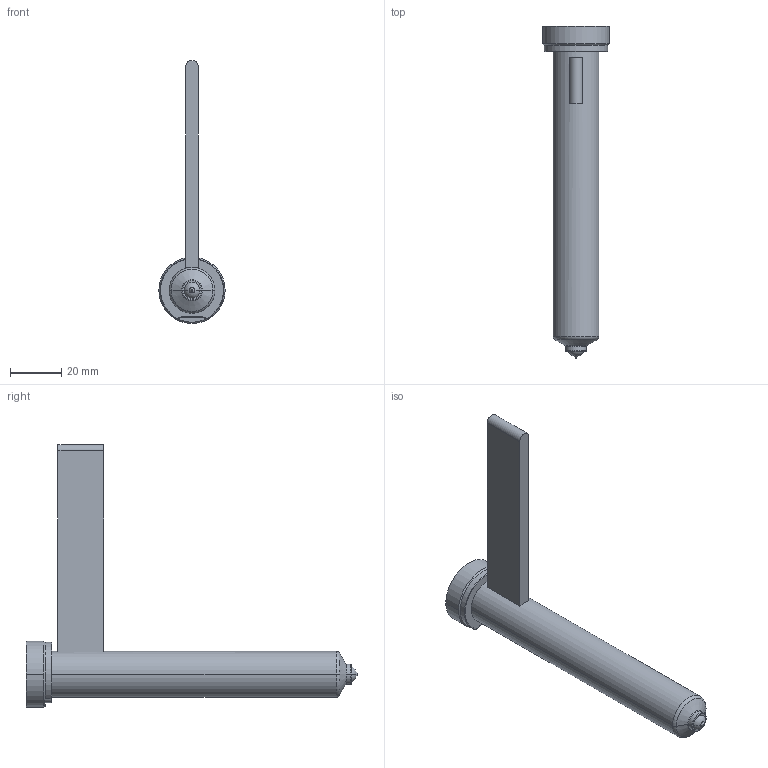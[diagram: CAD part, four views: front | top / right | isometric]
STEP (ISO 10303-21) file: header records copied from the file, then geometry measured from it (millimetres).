
FILE_DESCRIPTION((''),'2;1');
FILE_NAME('EO04_PG-BL_STD_120_COT','2024-02-19T10:58:19',('sundharh'),(''),'CREO PARAMETRIC BY PTC INC, 2023154','CREO PARAMETRIC BY PTC INC, 2023154','');
FILE_SCHEMA(('CONFIG_CONTROL_DESIGN'));
Length unit declared in the file: millimetre
Products named in the file (1): EO04_PG-BL_STD_120_COT
Bounding box: 26 x 130 x 103 mm (x, y, z)
Volume: 41554.5 mm3; surface area: 11977.1 mm2
Topology: 1 solids, 1 shells, 40 faces, 85 edges, 50 vertices
Faces by surface type: cylinder 13, plane 10, torus 9, cone 6, sphere 2
Entity records: 1195 total; most frequent: CARTESIAN_POINT 265, DIRECTION 209, ORIENTED_EDGE 170, AXIS2_PLACEMENT_3D 90, EDGE_CURVE 85, VERTEX_POINT 50, CIRCLE 50, EDGE_LOOP 43
